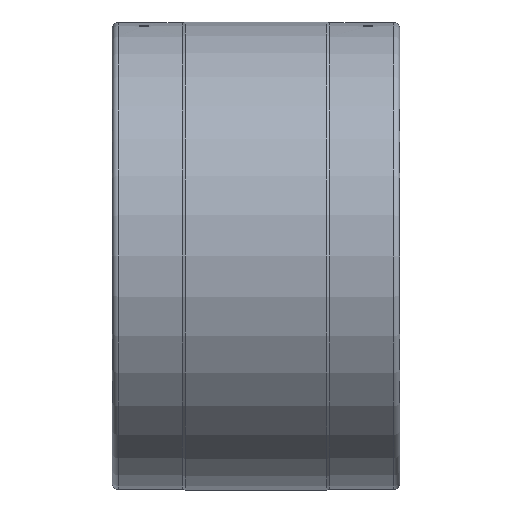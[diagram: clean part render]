
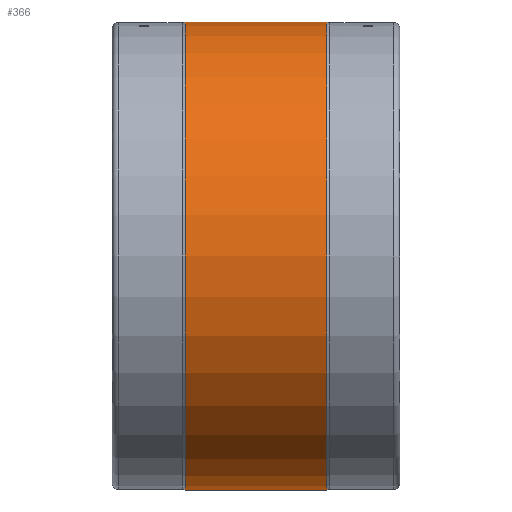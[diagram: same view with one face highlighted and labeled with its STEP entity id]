
A CAD part, front view. The second image highlights one B-rep face of the part: STEP entity #366.
In plain terms, the highlighted cylindrical face has radius 407 mm (diameter 814 mm), a full revolution.
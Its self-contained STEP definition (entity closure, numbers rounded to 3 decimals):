
#41=CYLINDRICAL_SURFACE('',#420,407.);
#66=ORIENTED_EDGE('',*,*,#131,.T.);
#67=ORIENTED_EDGE('',*,*,#130,.F.);
#130=EDGE_CURVE('',#164,#164,#194,.T.);
#131=EDGE_CURVE('',#165,#165,#195,.T.);
#164=VERTEX_POINT('',#671);
#165=VERTEX_POINT('',#674);
#194=CIRCLE('',#419,407.);
#195=CIRCLE('',#421,407.);
#226=EDGE_LOOP('',(#66));
#227=EDGE_LOOP('',(#67));
#294=FACE_BOUND('',#226,.T.);
#295=FACE_BOUND('',#227,.T.);
#366=ADVANCED_FACE('',(#294,#295),#41,.T.);
#419=AXIS2_PLACEMENT_3D('',#670,#487,#488);
#420=AXIS2_PLACEMENT_3D('',#672,#489,#490);
#421=AXIS2_PLACEMENT_3D('',#673,#491,#492);
#487=DIRECTION('',(-1.,0.,0.));
#488=DIRECTION('',(0.,0.,1.));
#489=DIRECTION('',(-1.,0.,0.));
#490=DIRECTION('',(0.,0.,1.));
#491=DIRECTION('',(-1.,0.,0.));
#492=DIRECTION('',(0.,0.,1.));
#670=CARTESIAN_POINT('',(-123.,0.,0.));
#671=CARTESIAN_POINT('',(-123.,0.,407.));
#672=CARTESIAN_POINT('',(-100.,0.,0.));
#673=CARTESIAN_POINT('',(123.,0.,0.));
#674=CARTESIAN_POINT('',(123.,0.,407.));
